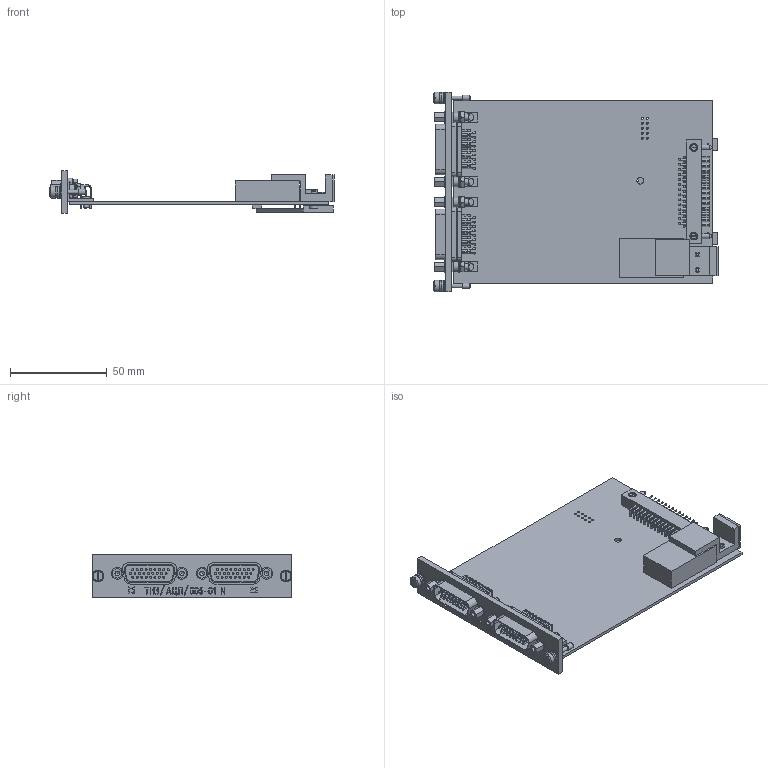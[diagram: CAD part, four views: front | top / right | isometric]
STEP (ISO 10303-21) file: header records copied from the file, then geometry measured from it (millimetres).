
FILE_DESCRIPTION(('STEP AP203'), '1');
FILE_NAME('帎迗.468155.006-01 沓劌錪 眝3_氈柉006-01', '', ('UNSPECIFIED'), ('UNSPECIFIED'), 'C3D Converter', 'C3D Toolkit', '');
FILE_SCHEMA(('CONFIG_CONTROL_DESIGN'));
Length unit declared in the file: millimetre
Products named in the file (1): КМНТ.468155.006-01
Bounding box: 146.73 x 103 x 21.7 mm (x, y, z)
Volume: 47701.9 mm3; surface area: 50094.7 mm2
Topology: 7 solids, 7 shells, 2447 faces, 6391 edges, 4159 vertices
Faces by surface type: cylinder 1160, plane 1052, torus 91, cone 84, sphere 60
Full cylindrical faces by diameter (mm): 0.6 x177, 0.76 x52, 0.8 x29, 1 x198, 1.221 x2, 1.6 x6, 1.7 x2, 2 x2, 2.362 x4, 2.459 x2, 2.49 x2, 2.5 x2, 2.6 x2, 2.7 x2, 2.8 x2, 3 x14, 3.1 x4, 3.175 x8, 3.2 x10, 3.4 x4, 3.5 x5, 4 x6, 4.5 x2, 5 x8, 5.7 x2, 6 x16
Entity records: 99546 total; most frequent: CARTESIAN_POINT 19929, DIRECTION 13241, ORIENTED_EDGE 11186, EDGE_CURVE 5593, AXIS2_PLACEMENT_3D 5429, VERTEX_POINT 4126, EDGE_LOOP 3761, CIRCLE 2981
